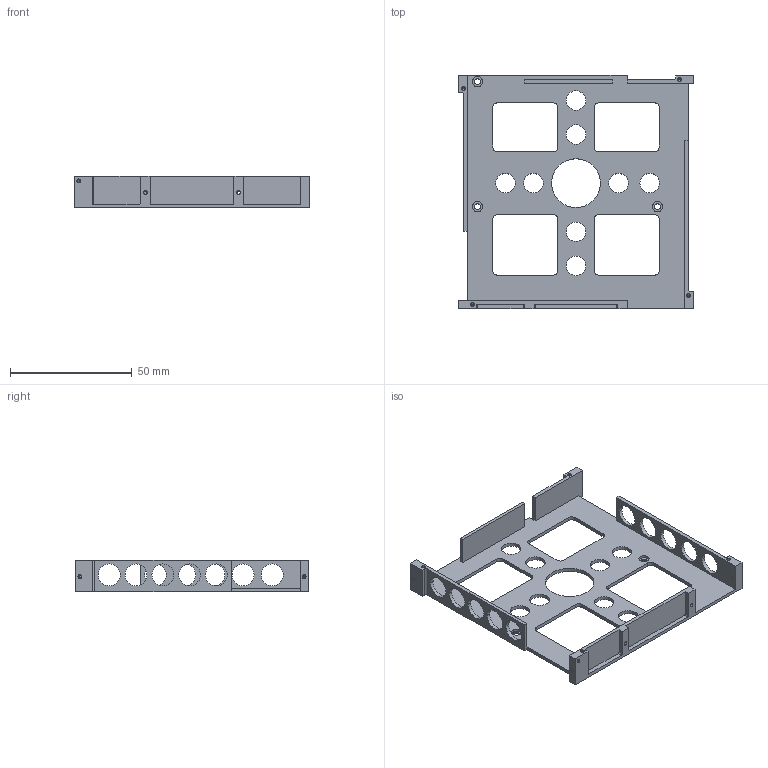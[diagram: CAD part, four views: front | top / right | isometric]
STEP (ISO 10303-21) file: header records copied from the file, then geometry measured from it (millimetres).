
FILE_DESCRIPTION((''),'2;1');
FILE_NAME('BATTERY_BOX','2020-03-13T',('g0715'),(''),'PRO/ENGINEER BY PARAMETRIC TECHNOLOGY CORPORATION, 2014090','PRO/ENGINEER BY PARAMETRIC TECHNOLOGY CORPORATION, 2014090','');
FILE_SCHEMA(('CONFIG_CONTROL_DESIGN'));
Length unit declared in the file: millimetre
Products named in the file (1): BATTERY_BOX
Bounding box: 97 x 96 x 13.1 mm (x, y, z)
Volume: 13006.3 mm3; surface area: 19227.7 mm2
Topology: 1 solids, 12 shells, 202 faces, 562 edges, 371 vertices
Faces by surface type: cylinder 118, plane 72, cone 12
Entity records: 6657 total; most frequent: DIRECTION 1211, CARTESIAN_POINT 1131, ORIENTED_EDGE 1056, EDGE_CURVE 550, AXIS2_PLACEMENT_3D 459, VERTEX_POINT 371, VECTOR 293, LINE 293
